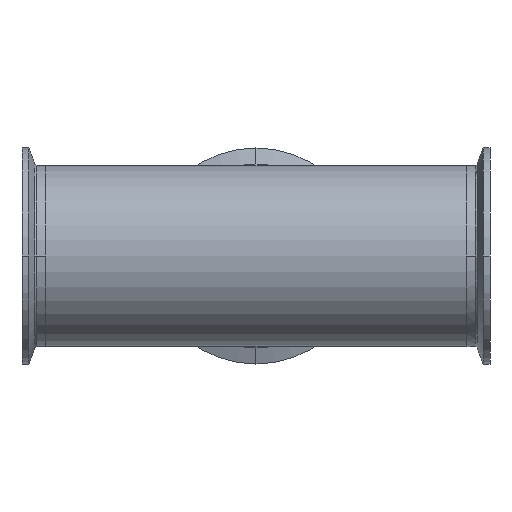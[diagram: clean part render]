
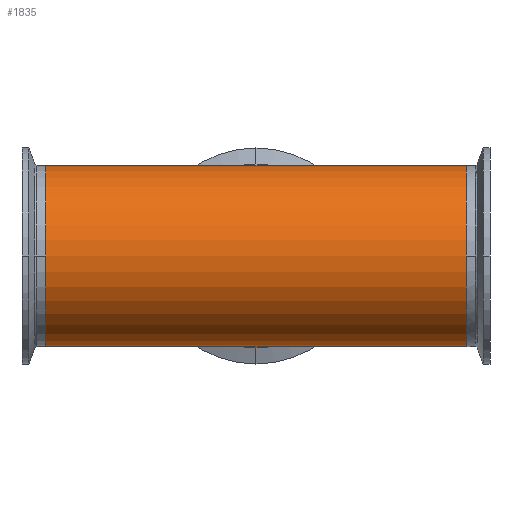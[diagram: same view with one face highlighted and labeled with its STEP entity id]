
A CAD part, front view. The second image highlights one B-rep face of the part: STEP entity #1835.
In plain terms, the highlighted cylindrical face has radius 38.1 mm (diameter 76.2 mm), a partial arc.
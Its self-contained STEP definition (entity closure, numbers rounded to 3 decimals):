
#43 = DIRECTION ( 'NONE',  ( 0., 0., 1. ) ) ;
#98 = VERTEX_POINT ( 'NONE', #1544 ) ;
#99 = AXIS2_PLACEMENT_3D ( 'NONE', #4639, #4722, #4655 ) ;
#121 = VECTOR ( 'NONE', #2503, 1000. ) ;
#195 = AXIS2_PLACEMENT_3D ( 'NONE', #4557, #2318, #43 ) ;
#248 = VERTEX_POINT ( 'NONE', #392 ) ;
#354 = CYLINDRICAL_SURFACE ( 'NONE', #99, 38.1 ) ;
#363 = CIRCLE ( 'NONE', #372, 38.1 ) ;
#372 = AXIS2_PLACEMENT_3D ( 'NONE', #555, #596, #979 ) ;
#392 = CARTESIAN_POINT ( 'NONE',  ( 88.4, 0., 38.1 ) ) ;
#402 = ORIENTED_EDGE ( 'NONE', *, *, #2479, .T. ) ;
#546 = LINE ( 'NONE', #2639, #4463 ) ;
#555 = CARTESIAN_POINT ( 'NONE',  ( 88.4, 0., 0. ) ) ;
#586 = FACE_OUTER_BOUND ( 'NONE', #845, .T. ) ;
#596 = DIRECTION ( 'NONE',  ( -1., 0., 0. ) ) ;
#845 = EDGE_LOOP ( 'NONE', ( #1218, #4156, #2011, #3088, #402, #2260 ) ) ;
#970 = EDGE_CURVE ( 'NONE', #3130, #248, #363, .T. ) ;
#979 = DIRECTION ( 'NONE',  ( 0., 0., 1. ) ) ;
#984 = CARTESIAN_POINT ( 'NONE',  ( 196.163, 0., 38.1 ) ) ;
#1054 = EDGE_CURVE ( 'NONE', #98, #3167, #4167, .T. ) ;
#1218 = ORIENTED_EDGE ( 'NONE', *, *, #1657, .F. ) ;
#1266 = CARTESIAN_POINT ( 'NONE',  ( 0., 0., 38.1 ) ) ;
#1544 = CARTESIAN_POINT ( 'NONE',  ( 0., 0., -38.1 ) ) ;
#1657 = EDGE_CURVE ( 'NONE', #3130, #98, #3736, .T. ) ;
#1835 = ADVANCED_FACE ( 'NONE', ( #586 ), #354, .T. ) ;
#2011 = ORIENTED_EDGE ( 'NONE', *, *, #4750, .T. ) ;
#2192 = CARTESIAN_POINT ( 'NONE',  ( -88.4, 0., -38.1 ) ) ;
#2260 = ORIENTED_EDGE ( 'NONE', *, *, #1054, .F. ) ;
#2318 = DIRECTION ( 'NONE',  ( 1., 0., 0. ) ) ;
#2446 = CARTESIAN_POINT ( 'NONE',  ( 196.163, 0., -38.1 ) ) ;
#2479 = EDGE_CURVE ( 'NONE', #4254, #3167, #2758, .T. ) ;
#2495 = DIRECTION ( 'NONE',  ( -1., 0., 0. ) ) ;
#2503 = DIRECTION ( 'NONE',  ( -1., 0., 0. ) ) ;
#2511 = DIRECTION ( 'NONE',  ( -1., 0., 0. ) ) ;
#2612 = CARTESIAN_POINT ( 'NONE',  ( -88.4, 0., 38.1 ) ) ;
#2639 = CARTESIAN_POINT ( 'NONE',  ( 196.163, 0., 38.1 ) ) ;
#2679 = VERTEX_POINT ( 'NONE', #1266 ) ;
#2723 = VECTOR ( 'NONE', #2495, 1000. ) ;
#2758 = CIRCLE ( 'NONE', #195, 38.1 ) ;
#2802 = CARTESIAN_POINT ( 'NONE',  ( 196.163, 0., -38.1 ) ) ;
#2873 = LINE ( 'NONE', #984, #4733 ) ;
#3088 = ORIENTED_EDGE ( 'NONE', *, *, #3776, .T. ) ;
#3130 = VERTEX_POINT ( 'NONE', #3307 ) ;
#3167 = VERTEX_POINT ( 'NONE', #2192 ) ;
#3307 = CARTESIAN_POINT ( 'NONE',  ( 88.4, 0., -38.1 ) ) ;
#3377 = DIRECTION ( 'NONE',  ( -1., 0., 0. ) ) ;
#3736 = LINE ( 'NONE', #2446, #2723 ) ;
#3776 = EDGE_CURVE ( 'NONE', #2679, #4254, #546, .T. ) ;
#4156 = ORIENTED_EDGE ( 'NONE', *, *, #970, .T. ) ;
#4167 = LINE ( 'NONE', #2802, #121 ) ;
#4254 = VERTEX_POINT ( 'NONE', #2612 ) ;
#4463 = VECTOR ( 'NONE', #3377, 1000. ) ;
#4557 = CARTESIAN_POINT ( 'NONE',  ( -88.4, 0., 0. ) ) ;
#4639 = CARTESIAN_POINT ( 'NONE',  ( 196.163, 0., 0. ) ) ;
#4655 = DIRECTION ( 'NONE',  ( 0., 0., 1. ) ) ;
#4722 = DIRECTION ( 'NONE',  ( -1., 0., 0. ) ) ;
#4733 = VECTOR ( 'NONE', #2511, 1000. ) ;
#4750 = EDGE_CURVE ( 'NONE', #248, #2679, #2873, .T. ) ;
